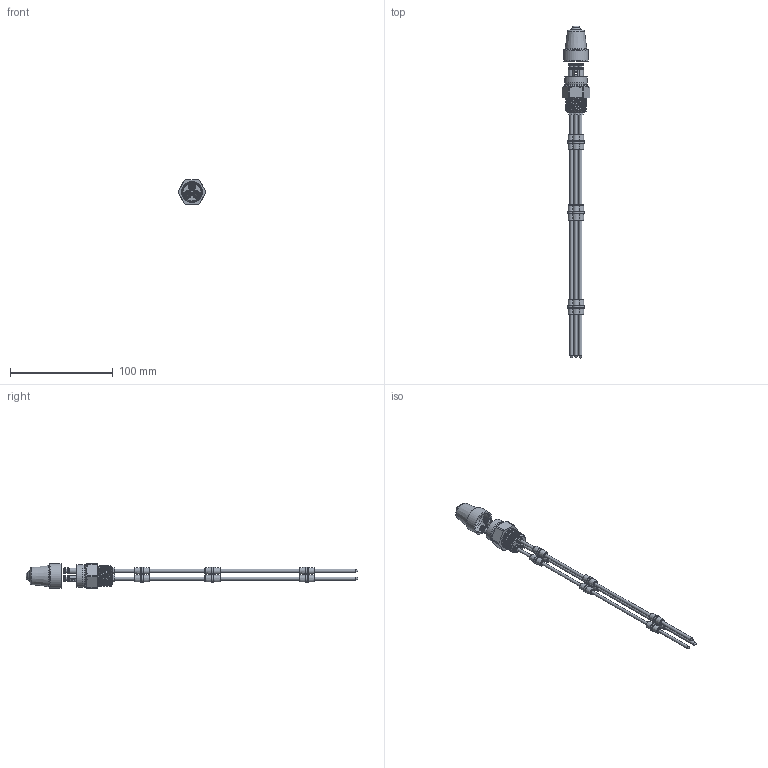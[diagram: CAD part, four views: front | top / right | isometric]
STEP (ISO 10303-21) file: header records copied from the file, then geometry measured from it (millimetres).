
FILE_DESCRIPTION (( 'STEP AP214' ), '1' );
FILE_NAME ('Ñáîðêà1.STEP', '2020-05-20T09:30:59', ( '' ), ( '' ), 'SwSTEP 2.0', 'SolidWorks 2019', '' );
FILE_SCHEMA (( 'AUTOMOTIVE_DESIGN' ));
Length unit declared in the file: millimetre
Products named in the file (10): hex thin nut gradeb_din_Hexagon Nut ISO 4036 - M3 - N; 櫻蠉錪2^栖闉罻1; 櫻蠉錪1^栖闉罻1; 櫻蠉錪4^栖闉罻1; pan head cross recess screw_din_ISO 7045 - M3 x 6 - Z --- 6N; 櫻蠉錪5^栖闉罻1; plain washer small grade a_din_Washer DIN 433 - 3.2; Êîïèÿ Izoliator V.4^Ñáîðêà1; 櫻蠉錪3^栖闉罻1; 栖闉罻1
Assembly tree (23 placements, depth 2):
  櫻蠉錪3^栖闉罻1
  栖闉罻1
    櫻蠉錪1^栖闉罻1
    櫻蠉錪2^栖闉罻1  x3
    櫻蠉錪4^栖闉罻1  x3
    Êîïèÿ Izoliator V.4^Ñáîðêà1  x3
    櫻蠉錪5^栖闉罻1
    hex thin nut gradeb_din_Hexagon Nut ISO 4036 - M3 - N  x3
    plain washer small grade a_din_Washer DIN 433 - 3.2  x6
    pan head cross recess screw_din_ISO 7045 - M3 x 6 - Z --- 6N  x3
Bounding box: 27 x 322.5 x 24.1 mm (x, y, z)
Volume: 26794.8 mm3; surface area: 25780.8 mm2
Topology: 23 solids, 23 shells, 566 faces, 1362 edges, 855 vertices
Faces by surface type: plane 189, cone 119, cylinder 108, torus 83, bspline 58, sphere 9
Full cylindrical faces by diameter (mm): 2.5 x3, 3 x27, 3.2 x6, 5.6 x3, 6 x6, 7 x4, 8.2 x1, 10 x1, 21.1 x2, 22 x2, 24.1 x1
Entity records: 9279 total; most frequent: CARTESIAN_POINT 4142, DIRECTION 1004, ORIENTED_EDGE 888, AXIS2_PLACEMENT_3D 455, EDGE_CURVE 444, EDGE_LOOP 322, VERTEX_POINT 308, FACE_OUTER_BOUND 256
